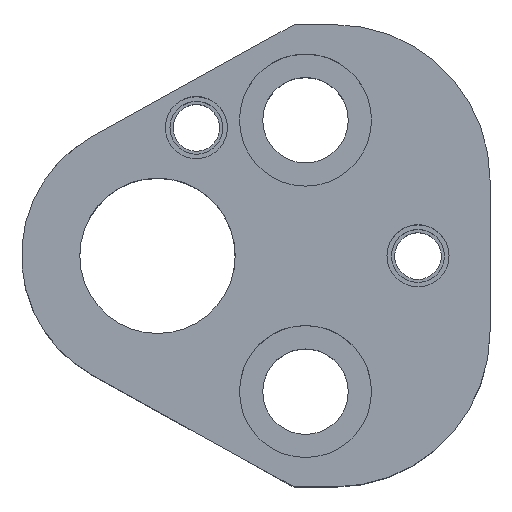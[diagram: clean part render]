
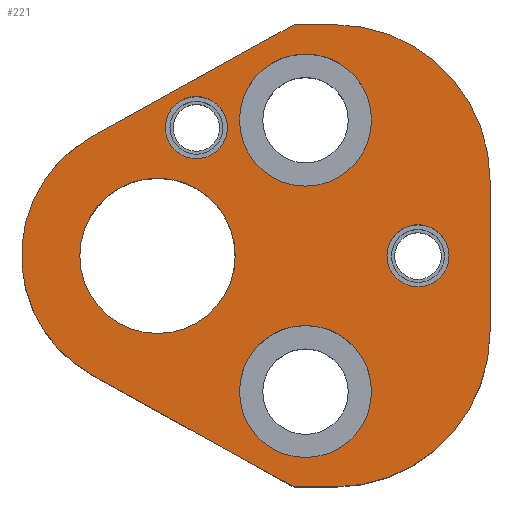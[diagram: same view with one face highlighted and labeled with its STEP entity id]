
A CAD part, top view. The second image highlights one B-rep face of the part: STEP entity #221.
In plain terms, the highlighted planar face has unit normal (0, 0, 1).
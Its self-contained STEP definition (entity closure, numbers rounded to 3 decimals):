
#104=FACE_BOUND('',#319,.T.);
#105=FACE_BOUND('',#320,.T.);
#106=FACE_BOUND('',#321,.T.);
#107=FACE_BOUND('',#322,.T.);
#108=FACE_BOUND('',#323,.T.);
#109=FACE_BOUND('',#324,.T.);
#149=CIRCLE('',#871,20.);
#151=CIRCLE('',#875,20.);
#161=CIRCLE('',#892,8.5);
#163=CIRCLE('',#895,8.5);
#165=CIRCLE('',#899,8.5);
#167=CIRCLE('',#902,8.5);
#169=CIRCLE('',#906,17.5);
#170=CIRCLE('',#907,4.);
#171=CIRCLE('',#908,4.);
#172=CIRCLE('',#909,4.);
#173=CIRCLE('',#910,4.);
#174=CIRCLE('',#911,10.);
#175=CIRCLE('',#912,10.);
#221=ADVANCED_FACE('',(#104,#105,#106,#107,#108,#109),#255,.T.);
#255=PLANE('',#913);
#319=EDGE_LOOP('',(#424,#425,#426,#427,#428,#429,#430,#431));
#320=EDGE_LOOP('',(#432,#433));
#321=EDGE_LOOP('',(#434,#435));
#322=EDGE_LOOP('',(#436,#437));
#323=EDGE_LOOP('',(#438,#439));
#324=EDGE_LOOP('',(#440,#441));
#424=ORIENTED_EDGE('',*,*,#696,.T.);
#425=ORIENTED_EDGE('',*,*,#654,.T.);
#426=ORIENTED_EDGE('',*,*,#658,.T.);
#427=ORIENTED_EDGE('',*,*,#661,.T.);
#428=ORIENTED_EDGE('',*,*,#664,.T.);
#429=ORIENTED_EDGE('',*,*,#667,.T.);
#430=ORIENTED_EDGE('',*,*,#670,.T.);
#431=ORIENTED_EDGE('',*,*,#697,.T.);
#432=ORIENTED_EDGE('',*,*,#698,.F.);
#433=ORIENTED_EDGE('',*,*,#699,.F.);
#434=ORIENTED_EDGE('',*,*,#700,.F.);
#435=ORIENTED_EDGE('',*,*,#701,.F.);
#436=ORIENTED_EDGE('',*,*,#694,.F.);
#437=ORIENTED_EDGE('',*,*,#690,.F.);
#438=ORIENTED_EDGE('',*,*,#688,.F.);
#439=ORIENTED_EDGE('',*,*,#684,.F.);
#440=ORIENTED_EDGE('',*,*,#702,.T.);
#441=ORIENTED_EDGE('',*,*,#703,.T.);
#581=VERTEX_POINT('',#1228);
#582=VERTEX_POINT('',#1230);
#585=VERTEX_POINT('',#1237);
#587=VERTEX_POINT('',#1243);
#589=VERTEX_POINT('',#1249);
#591=VERTEX_POINT('',#1255);
#593=VERTEX_POINT('',#1261);
#602=VERTEX_POINT('',#1290);
#603=VERTEX_POINT('',#1291);
#606=VERTEX_POINT('',#1303);
#607=VERTEX_POINT('',#1304);
#610=VERTEX_POINT('',#1316);
#611=VERTEX_POINT('',#1319);
#612=VERTEX_POINT('',#1320);
#613=VERTEX_POINT('',#1323);
#614=VERTEX_POINT('',#1324);
#615=VERTEX_POINT('',#1327);
#616=VERTEX_POINT('',#1328);
#654=EDGE_CURVE('',#582,#581,#764,.T.);
#658=EDGE_CURVE('',#581,#585,#149,.T.);
#661=EDGE_CURVE('',#585,#587,#769,.T.);
#664=EDGE_CURVE('',#587,#589,#151,.T.);
#667=EDGE_CURVE('',#589,#591,#773,.T.);
#670=EDGE_CURVE('',#591,#593,#776,.T.);
#684=EDGE_CURVE('',#602,#603,#161,.T.);
#688=EDGE_CURVE('',#603,#602,#163,.T.);
#690=EDGE_CURVE('',#606,#607,#165,.T.);
#694=EDGE_CURVE('',#607,#606,#167,.T.);
#696=EDGE_CURVE('',#610,#582,#786,.T.);
#697=EDGE_CURVE('',#593,#610,#169,.T.);
#698=EDGE_CURVE('',#611,#612,#170,.T.);
#699=EDGE_CURVE('',#612,#611,#171,.T.);
#700=EDGE_CURVE('',#613,#614,#172,.T.);
#701=EDGE_CURVE('',#614,#613,#173,.T.);
#702=EDGE_CURVE('',#615,#616,#174,.T.);
#703=EDGE_CURVE('',#616,#615,#175,.T.);
#764=LINE('',#1229,#817);
#769=LINE('',#1244,#822);
#773=LINE('',#1256,#826);
#776=LINE('',#1262,#829);
#786=LINE('',#1315,#839);
#817=VECTOR('',#973,1.);
#822=VECTOR('',#986,1.);
#826=VECTOR('',#998,1.);
#829=VECTOR('',#1003,1.);
#839=VECTOR('',#1067,1.);
#871=AXIS2_PLACEMENT_3D('',#1238,#979,#980);
#875=AXIS2_PLACEMENT_3D('',#1250,#991,#992);
#892=AXIS2_PLACEMENT_3D('',#1289,#1035,#1036);
#895=AXIS2_PLACEMENT_3D('',#1298,#1043,#1044);
#899=AXIS2_PLACEMENT_3D('',#1302,#1051,#1052);
#902=AXIS2_PLACEMENT_3D('',#1311,#1059,#1060);
#906=AXIS2_PLACEMENT_3D('',#1317,#1068,#1069);
#907=AXIS2_PLACEMENT_3D('',#1318,#1070,#1071);
#908=AXIS2_PLACEMENT_3D('',#1321,#1072,#1073);
#909=AXIS2_PLACEMENT_3D('',#1322,#1074,#1075);
#910=AXIS2_PLACEMENT_3D('',#1325,#1076,#1077);
#911=AXIS2_PLACEMENT_3D('',#1326,#1078,#1079);
#912=AXIS2_PLACEMENT_3D('',#1329,#1080,#1081);
#913=AXIS2_PLACEMENT_3D('',#1330,#1082,#1083);
#973=DIRECTION('',(1.,0.,0.));
#979=DIRECTION('',(0.,0.,1.));
#980=DIRECTION('',(-0.707,0.707,0.));
#986=DIRECTION('',(0.,1.,0.));
#991=DIRECTION('',(0.,0.,1.));
#992=DIRECTION('',(-0.707,-0.707,0.));
#998=DIRECTION('',(-1.,0.,0.));
#1003=DIRECTION('',(-0.875,-0.485,0.));
#1035=DIRECTION('',(0.,0.,1.));
#1036=DIRECTION('',(-1.,0.,0.));
#1043=DIRECTION('',(0.,0.,1.));
#1044=DIRECTION('',(1.,0.,0.));
#1051=DIRECTION('',(0.,0.,1.));
#1052=DIRECTION('',(-1.,0.,0.));
#1059=DIRECTION('',(0.,0.,1.));
#1060=DIRECTION('',(1.,0.,0.));
#1067=DIRECTION('',(0.875,-0.485,0.));
#1068=DIRECTION('',(0.,0.,1.));
#1069=DIRECTION('',(1.,0.,0.));
#1070=DIRECTION('',(0.,0.,1.));
#1071=DIRECTION('',(1.,0.,0.));
#1072=DIRECTION('',(0.,0.,1.));
#1073=DIRECTION('',(-1.,0.,0.));
#1074=DIRECTION('',(0.,0.,1.));
#1075=DIRECTION('',(1.,0.,0.));
#1076=DIRECTION('',(0.,0.,1.));
#1077=DIRECTION('',(-1.,0.,0.));
#1078=DIRECTION('',(0.,0.,-1.));
#1079=DIRECTION('',(-1.,0.,0.));
#1080=DIRECTION('',(0.,0.,-1.));
#1081=DIRECTION('',(1.,0.,0.));
#1082=DIRECTION('',(0.,0.,1.));
#1083=DIRECTION('',(-0.875,0.485,0.));
#1228=CARTESIAN_POINT('',(22.8,-29.75,32.));
#1229=CARTESIAN_POINT('',(17.574,-29.75,32.));
#1230=CARTESIAN_POINT('',(17.574,-29.75,32.));
#1237=CARTESIAN_POINT('',(42.8,-9.75,32.));
#1238=CARTESIAN_POINT('',(22.8,-9.75,32.));
#1243=CARTESIAN_POINT('',(42.8,9.75,32.));
#1244=CARTESIAN_POINT('',(42.8,9.75,32.));
#1249=CARTESIAN_POINT('',(22.8,29.75,32.));
#1250=CARTESIAN_POINT('',(22.8,9.75,32.));
#1255=CARTESIAN_POINT('',(17.574,29.75,32.));
#1256=CARTESIAN_POINT('',(17.574,29.75,32.));
#1261=CARTESIAN_POINT('',(-8.484,15.306,32.));
#1262=CARTESIAN_POINT('',(17.574,29.75,32.));
#1289=CARTESIAN_POINT('',(19.05,-17.47,32.));
#1290=CARTESIAN_POINT('',(19.05,-25.97,32.));
#1291=CARTESIAN_POINT('',(19.05,-8.97,32.));
#1298=CARTESIAN_POINT('',(19.05,-17.47,32.));
#1302=CARTESIAN_POINT('',(19.05,17.47,32.));
#1303=CARTESIAN_POINT('',(19.05,8.97,32.));
#1304=CARTESIAN_POINT('',(19.05,25.97,32.));
#1311=CARTESIAN_POINT('',(19.05,17.47,32.));
#1315=CARTESIAN_POINT('',(17.574,-29.75,32.));
#1316=CARTESIAN_POINT('',(-8.484,-15.306,32.));
#1317=CARTESIAN_POINT('',(0.,0.,32.));
#1318=CARTESIAN_POINT('',(33.53,0.,32.));
#1319=CARTESIAN_POINT('',(33.53,4.,32.));
#1320=CARTESIAN_POINT('',(33.53,-4.,32.));
#1321=CARTESIAN_POINT('',(33.53,0.,32.));
#1322=CARTESIAN_POINT('',(5.,16.5,32.));
#1323=CARTESIAN_POINT('',(5.,20.5,32.));
#1324=CARTESIAN_POINT('',(5.,12.5,32.));
#1325=CARTESIAN_POINT('',(5.,16.5,32.));
#1326=CARTESIAN_POINT('',(0.,0.,32.));
#1327=CARTESIAN_POINT('',(0.,10.,32.));
#1328=CARTESIAN_POINT('',(0.,-10.,32.));
#1329=CARTESIAN_POINT('',(0.,0.,32.));
#1330=CARTESIAN_POINT('',(-8.484,-15.306,32.));
